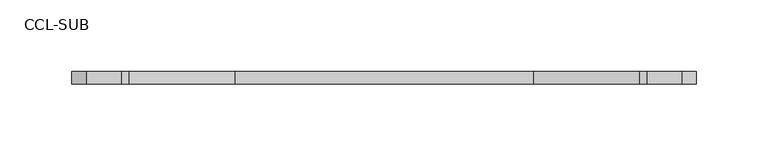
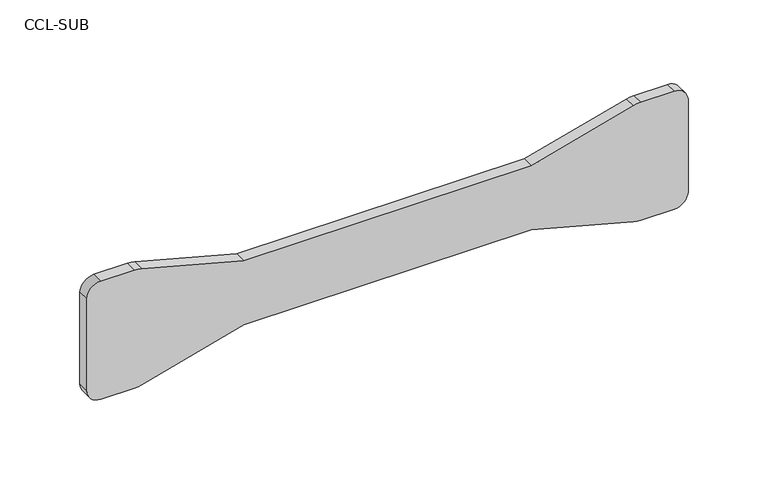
"""IFC4 building model written with IfcOpenShell, lengths in millimetres: proxy geometry, d&b CL-Series CCL-SUB : CCL-SUB."""

from ifc_helpers import new_model, si_unit, point, frame, frame_2d, origin, place, context, project, spatial, polyline, circle_curve, trimmed, segment, composite_curve, outline, extrude, source, transform, mapped, element, save


def ccl_sub_1b7c7d1c(model_context):
    return source(origin(), model_context, "Body", "SweptSolid", [
        extrude(outline(composite_curve([segment(trimmed(circle_curve(frame_2d((315.0, 2292.5460361)), 10.0), [point((315.0, 2282.5460361))], [point((305.0, 2292.5460361))], False, "CARTESIAN"), True, "CONTINUOUS"), segment(polyline([(305.0, 2292.5460361), (305.0, 2316.8364714)]), True, "CONTINUOUS"), segment(trimmed(circle_curve(frame_2d((325.5811876, 2316.8364714)), 20.5811876), [point((305.0, 2316.8364714))], [point((305.701287, 2322.1632747))], False, "CARTESIAN"), True, "CONTINUOUS"), segment(polyline([(305.701287, 2322.1632747), (325.4481457, 2395.8595546), (325.4481457, 2603.2325176), (305.701287, 2676.9287975)]), True, "CONTINUOUS"), segment(trimmed(circle_curve(frame_2d((325.5811876, 2682.2556009)), 20.5811876), [point((305.701287, 2676.9287975))], [point((305.0, 2682.2556009))], False, "CARTESIAN"), True, "CONTINUOUS"), segment(polyline([(305.0, 2682.2556009), (305.0, 2706.5460361)]), True, "CONTINUOUS"), segment(trimmed(circle_curve(frame_2d((315.0, 2706.5460361)), 10.0), [point((305.0, 2706.5460361))], [point((315.0, 2716.5460361))], False, "CARTESIAN"), True, "CONTINUOUS"), segment(polyline([(315.0, 2716.5460361), (385.0, 2716.5460361)]), True, "CONTINUOUS"), segment(trimmed(circle_curve(frame_2d((385.0, 2706.5460361)), 10.0), [point((385.0, 2716.5460361))], [point((395.0, 2706.5460361))], False, "CARTESIAN"), True, "CONTINUOUS"), segment(polyline([(395.0, 2706.5460361), (395.0, 2682.2556009)]), True, "CONTINUOUS"), segment(trimmed(circle_curve(frame_2d((374.4188124, 2682.2556009)), 20.5811876), [point((395.0, 2682.2556009))], [point((394.298713, 2676.9287975))], False, "CARTESIAN"), True, "CONTINUOUS"), segment(polyline([(394.298713, 2676.9287975), (374.5518543, 2603.2325176), (374.5518543, 2395.8595546), (394.298713, 2322.1632747)]), True, "CONTINUOUS"), segment(trimmed(circle_curve(frame_2d((374.4188124, 2316.8364714)), 20.5811876), [point((394.298713, 2322.1632747))], [point((395.0, 2316.8364714))], False, "CARTESIAN"), True, "CONTINUOUS"), segment(polyline([(395.0, 2316.8364714), (395.0, 2292.5460361)]), True, "CONTINUOUS"), segment(trimmed(circle_curve(frame_2d((385.0, 2292.5460361)), 10.0), [point((395.0, 2292.5460361))], [point((385.0, 2282.5460361))], False, "CARTESIAN"), True, "CONTINUOUS"), segment(polyline([(385.0, 2282.5460361), (315.0, 2282.5460361)]), True, "CONTINUOUS")], self_intersect=False)), frame((0.0, 599.4505973, 0.0), z_axis=(0.0, 1.0, 0.0), x_axis=(0.0, 0.0, 1.0)), (0.0, 0.0, 1.0), 8.5),
    ])


if __name__ == "__main__":
    model = new_model("IFC4")
    model_context = context("Model", 3, world=origin())
    ifc_project = project(units=[si_unit("LENGTHUNIT", "METRE", prefix="MILLI")], contexts=[model_context])
    site = spatial("IfcSite", under=ifc_project)
    building = spatial("IfcBuilding", under=site)
    placement = place(None, origin())
    ccl_sub_shape = ccl_sub_1b7c7d1c(model_context)
    element("IfcBuildingElementProxy", 1, Name="d&b CL-Series CCL-SUB : CCL-SUB", ObjectType="d&b CL-Series CCL-SUB : CCL-SUB", at=placement, inside=building, context=model_context, shape_type="MappedRepresentation", body=[
        mapped(ccl_sub_shape, transform((0.0, 0.0, 0.0), x_axis=(1.0, 0.0, 0.0), y_axis=(0.0, 1.0, 0.0), z_axis=(0.0, 0.0, 1.0))),
    ])
    save(model, "model.ifc")
